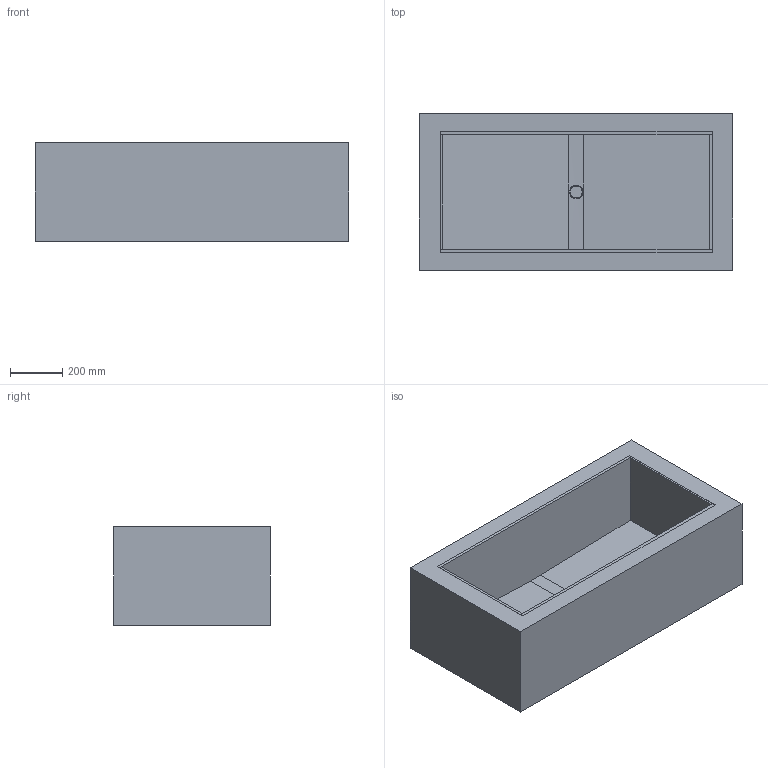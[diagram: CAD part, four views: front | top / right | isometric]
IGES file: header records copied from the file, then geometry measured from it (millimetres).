
Global section: file name: \\Archi-NAS\Comune\X GIOVANNI\LAVABI\VASCHE SU MISURA\SQUARE\3D\SQUARE.igs; native system: Rhinoceros ( Feb 23 2021 ); preprocessor: Trout Lake IGES 012 Feb 23 2021; date: 230531.125241; units: millimetre
Bounding box: 1200 x 600 x 377.17 mm (x, y, z)
Surface area: 6204595.5 mm2 (no closed solid volume)
Topology: 0 solids, 0 shells, 41 faces, 199 edges, 198 vertices
Faces by surface type: bspline 41
